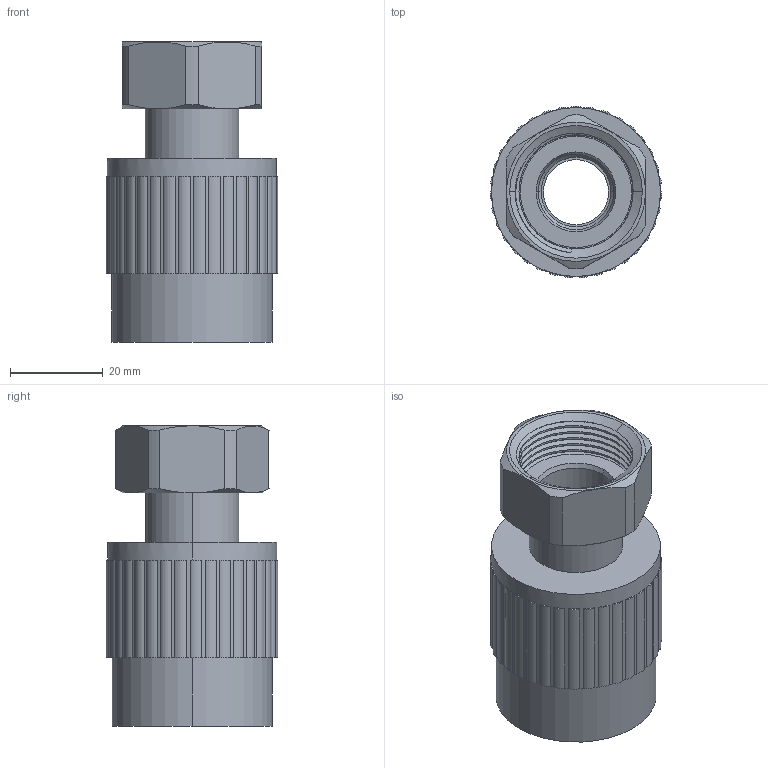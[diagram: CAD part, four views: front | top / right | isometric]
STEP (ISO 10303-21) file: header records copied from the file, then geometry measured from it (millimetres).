
FILE_DESCRIPTION (( 'STEP AP203' ), '1' );
FILE_NAME ('PPG02_ASM.STEP', '2022-08-23T13:30:06', ( '' ), ( '' ), 'SwSTEP 2.0', 'SolidWorks 2021', '' );
FILE_SCHEMA (( 'CONFIG_CONTROL_DESIGN' ));
Length unit declared in the file: millimetre
Products named in the file (4): PPG02_NUT; PPG02_ASM; PPG02_PLASTIC; PPG02_INSERT
Assembly tree (3 placements, depth 2):
  PPG02_ASM
    PPG02_PLASTIC
    PPG02_INSERT
    PPG02_NUT
Bounding box: 36.97 x 36.93 x 64.75 mm (x, y, z)
Volume: 34725.2 mm3; surface area: 17778.5 mm2
Topology: 3 solids, 3 shells, 231 faces, 611 edges, 401 vertices
Faces by surface type: cylinder 117, plane 95, cone 16, bspline 3
Entity records: 9369 total; most frequent: CARTESIAN_POINT 3071, DIRECTION 1324, ORIENTED_EDGE 1222, EDGE_CURVE 611, AXIS2_PLACEMENT_3D 547, VERTEX_POINT 401, CIRCLE 313, EDGE_LOOP 252
